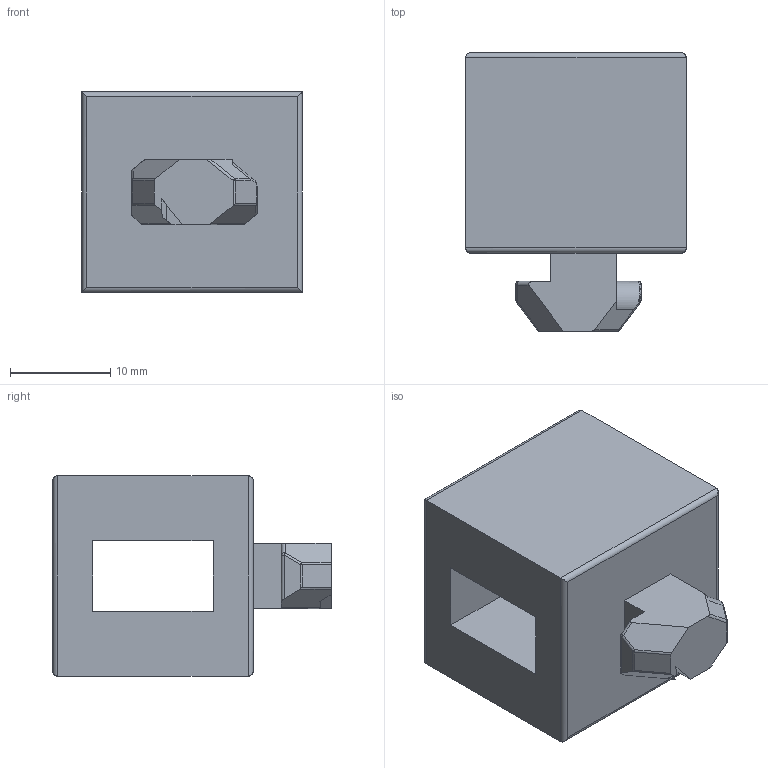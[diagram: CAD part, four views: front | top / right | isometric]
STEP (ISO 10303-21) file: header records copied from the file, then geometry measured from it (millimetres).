
FILE_DESCRIPTION(/* description */ (''),/* implementation_level */ '2;1');
FILE_NAME(/* name */ 'D:\cadd\new~產品型錄\配件\6系列\B06.stp',/* time_stamp */ '2016-12-09T14:22:08+08:00',/* author */ ('Owner'),/* organization */ (''),/* preprocessor_version */ 'ST-DEVELOPER v15.2',/* originating_system */ 'Autodesk Inventor 2014',/* authorisation */ '');
FILE_SCHEMA (('AUTOMOTIVE_DESIGN { 1 0 10303 214 3 1 1 }'));
Length unit declared in the file: millimetre
Products named in the file (1): B06
Bounding box: 22 x 27.8 x 20 mm (x, y, z)
Volume: 7006.1 mm3; surface area: 3576.9 mm2
Topology: 1 solids, 1 shells, 77 faces, 200 edges, 123 vertices
Faces by surface type: plane 40, cylinder 27, sphere 6, bspline 4
Entity records: 2417 total; most frequent: CARTESIAN_POINT 482, ORIENTED_EDGE 400, DIRECTION 399, EDGE_CURVE 200, LINE 145, VECTOR 145, AXIS2_PLACEMENT_3D 127, VERTEX_POINT 123
